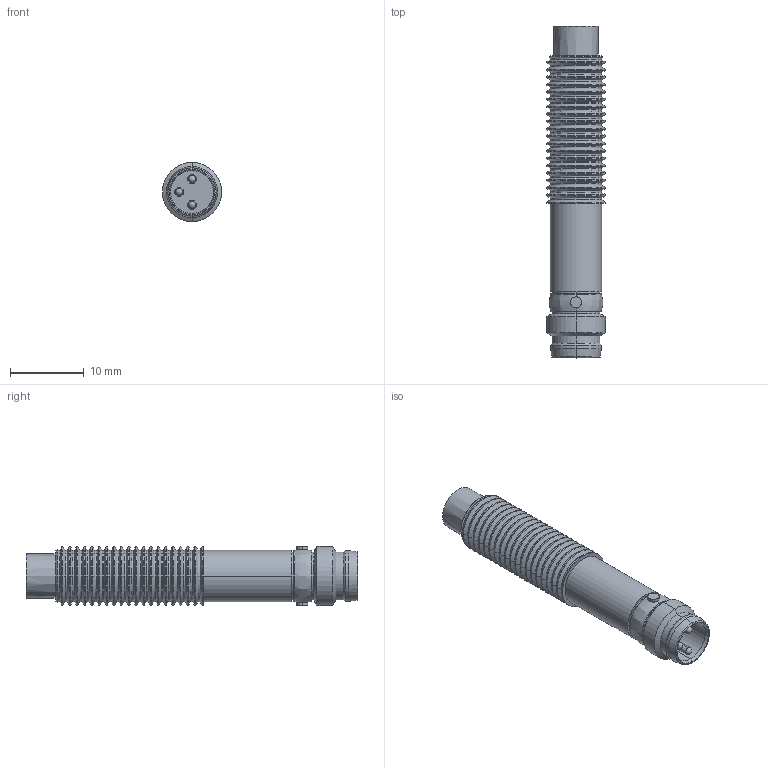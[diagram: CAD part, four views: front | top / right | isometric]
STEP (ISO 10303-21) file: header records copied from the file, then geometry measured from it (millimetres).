
FILE_DESCRIPTION(('STEP AP214'),'1');
FILE_NAME('F:/3D Zeichnungen/INIS 3D Daten/tmp0.step','2024-10-01T09:36:03',(' '),(' '),'Spatial InterOp 3D',' ',' ');
FILE_SCHEMA(('automotive_design'));
Length unit declared in the file: millimetre
Products named in the file (3): 2; 1
Bounding box: 8 x 45 x 8 mm (x, y, z)
Volume: 1878.3 mm3; surface area: 1977.4 mm2
Topology: 3 solids, 3 shells, 335 faces, 712 edges, 384 vertices
Faces by surface type: cone 150, cylinder 148, plane 25, torus 6, bspline 3, sphere 3
Entity records: 12122 total; most frequent: CARTESIAN_POINT 2128, DIRECTION 1681, ORIENTED_EDGE 1400, EDGE_CURVE 700, AXIS2_PLACEMENT_3D 682, VERTEX_POINT 384, EDGE_LOOP 356, CIRCLE 343
